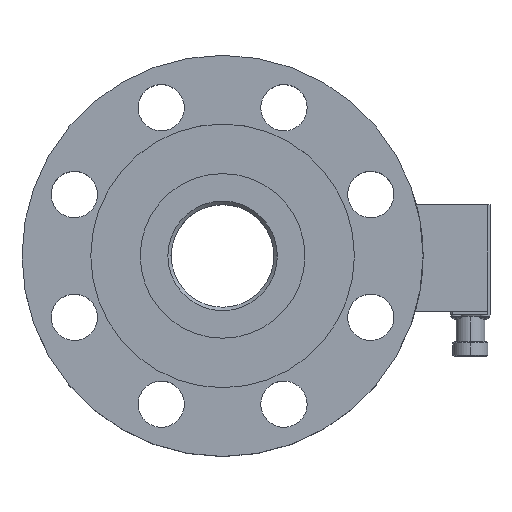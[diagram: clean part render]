
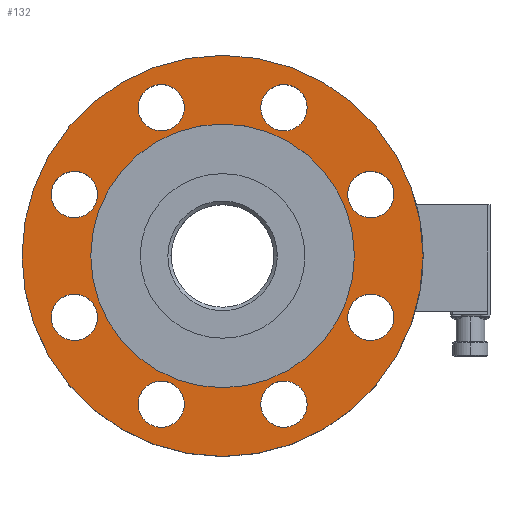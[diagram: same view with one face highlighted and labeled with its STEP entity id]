
A CAD part, top view. The second image highlights one B-rep face of the part: STEP entity #132.
In plain terms, the highlighted planar face has unit normal (0, 0, 1).
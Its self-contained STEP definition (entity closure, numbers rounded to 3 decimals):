
#132=ADVANCED_FACE('',(#359,#360,#361,#362,#363,#364,#365,#366,#367,#368),#369,.T.);
#359=FACE_BOUND('',#726,.T.);
#360=FACE_BOUND('',#727,.T.);
#361=FACE_BOUND('',#728,.T.);
#362=FACE_BOUND('',#729,.T.);
#363=FACE_BOUND('',#730,.T.);
#364=FACE_BOUND('',#731,.T.);
#365=FACE_BOUND('',#732,.T.);
#366=FACE_BOUND('',#733,.T.);
#367=FACE_BOUND('',#734,.T.);
#368=FACE_OUTER_BOUND('',#735,.T.);
#369=PLANE('',#736);
#726=EDGE_LOOP('',(#1437,#1438));
#727=EDGE_LOOP('',(#1439,#1440));
#728=EDGE_LOOP('',(#1441,#1442));
#729=EDGE_LOOP('',(#1443,#1444));
#730=EDGE_LOOP('',(#1445,#1446));
#731=EDGE_LOOP('',(#1447,#1448));
#732=EDGE_LOOP('',(#1449,#1450));
#733=EDGE_LOOP('',(#1451,#1452));
#734=EDGE_LOOP('',(#1453,#1454));
#735=EDGE_LOOP('',(#1455,#1456));
#736=AXIS2_PLACEMENT_3D('',#1457,#1458,#1459);
#1437=ORIENTED_EDGE('',*,*,#2516,.T.);
#1438=ORIENTED_EDGE('',*,*,#2499,.T.);
#1439=ORIENTED_EDGE('',*,*,#2518,.T.);
#1440=ORIENTED_EDGE('',*,*,#2495,.T.);
#1441=ORIENTED_EDGE('',*,*,#2520,.T.);
#1442=ORIENTED_EDGE('',*,*,#2491,.T.);
#1443=ORIENTED_EDGE('',*,*,#2522,.T.);
#1444=ORIENTED_EDGE('',*,*,#2487,.T.);
#1445=ORIENTED_EDGE('',*,*,#2524,.T.);
#1446=ORIENTED_EDGE('',*,*,#2483,.T.);
#1447=ORIENTED_EDGE('',*,*,#2526,.T.);
#1448=ORIENTED_EDGE('',*,*,#2479,.T.);
#1449=ORIENTED_EDGE('',*,*,#2528,.T.);
#1450=ORIENTED_EDGE('',*,*,#2475,.T.);
#1451=ORIENTED_EDGE('',*,*,#2530,.T.);
#1452=ORIENTED_EDGE('',*,*,#2471,.T.);
#1453=ORIENTED_EDGE('',*,*,#2538,.T.);
#1454=ORIENTED_EDGE('',*,*,#2449,.T.);
#1455=ORIENTED_EDGE('',*,*,#2503,.F.);
#1456=ORIENTED_EDGE('',*,*,#2514,.F.);
#1457=CARTESIAN_POINT('',(47.625,0.,50.8));
#1458=DIRECTION('',(0.,0.,1.0));
#1459=DIRECTION('',(-1.0,0.,0.));
#2449=EDGE_CURVE('',#2992,#2989,#2993,.T.);
#2471=EDGE_CURVE('',#3032,#3029,#3033,.T.);
#2475=EDGE_CURVE('',#3040,#3037,#3041,.T.);
#2479=EDGE_CURVE('',#3048,#3045,#3049,.T.);
#2483=EDGE_CURVE('',#3056,#3053,#3057,.T.);
#2487=EDGE_CURVE('',#3064,#3061,#3065,.T.);
#2491=EDGE_CURVE('',#3072,#3069,#3073,.T.);
#2495=EDGE_CURVE('',#3080,#3077,#3081,.T.);
#2499=EDGE_CURVE('',#3088,#3085,#3089,.T.);
#2503=EDGE_CURVE('',#3093,#3096,#3097,.T.);
#2514=EDGE_CURVE('',#3096,#3093,#3115,.T.);
#2516=EDGE_CURVE('',#3085,#3088,#3117,.T.);
#2518=EDGE_CURVE('',#3077,#3080,#3119,.T.);
#2520=EDGE_CURVE('',#3069,#3072,#3121,.T.);
#2522=EDGE_CURVE('',#3061,#3064,#3123,.T.);
#2524=EDGE_CURVE('',#3053,#3056,#3125,.T.);
#2526=EDGE_CURVE('',#3045,#3048,#3127,.T.);
#2528=EDGE_CURVE('',#3037,#3040,#3129,.T.);
#2530=EDGE_CURVE('',#3029,#3032,#3131,.T.);
#2538=EDGE_CURVE('',#2989,#2992,#3139,.T.);
#2989=VERTEX_POINT('',#3987);
#2992=VERTEX_POINT('',#3991);
#2993=CIRCLE('',#3992,62.6);
#3029=VERTEX_POINT('',#4039);
#3032=VERTEX_POINT('',#4043);
#3033=CIRCLE('',#4044,11.0);
#3037=VERTEX_POINT('',#4049);
#3040=VERTEX_POINT('',#4053);
#3041=CIRCLE('',#4054,11.0);
#3045=VERTEX_POINT('',#4059);
#3048=VERTEX_POINT('',#4063);
#3049=CIRCLE('',#4064,11.0);
#3053=VERTEX_POINT('',#4069);
#3056=VERTEX_POINT('',#4073);
#3057=CIRCLE('',#4074,11.0);
#3061=VERTEX_POINT('',#4079);
#3064=VERTEX_POINT('',#4083);
#3065=CIRCLE('',#4084,11.0);
#3069=VERTEX_POINT('',#4089);
#3072=VERTEX_POINT('',#4093);
#3073=CIRCLE('',#4094,11.0);
#3077=VERTEX_POINT('',#4099);
#3080=VERTEX_POINT('',#4103);
#3081=CIRCLE('',#4104,11.0);
#3085=VERTEX_POINT('',#4109);
#3088=VERTEX_POINT('',#4113);
#3089=CIRCLE('',#4114,11.0);
#3093=VERTEX_POINT('',#4119);
#3096=VERTEX_POINT('',#4123);
#3097=CIRCLE('',#4124,95.25);
#3115=CIRCLE('',#4146,95.25);
#3117=CIRCLE('',#4148,11.0);
#3119=CIRCLE('',#4150,11.0);
#3121=CIRCLE('',#4152,11.0);
#3123=CIRCLE('',#4154,11.0);
#3125=CIRCLE('',#4156,11.0);
#3127=CIRCLE('',#4158,11.0);
#3129=CIRCLE('',#4160,11.0);
#3131=CIRCLE('',#4162,11.0);
#3139=CIRCLE('',#4170,62.6);
#3987=CARTESIAN_POINT('',(62.6,0.0,50.8));
#3991=CARTESIAN_POINT('',(-62.6,0.,50.8));
#3992=AXIS2_PLACEMENT_3D('',#5028,#5029,#5030);
#4039=CARTESIAN_POINT('',(-80.562,-33.37,50.8));
#4043=CARTESIAN_POINT('',(-60.237,-24.951,50.8));
#4044=AXIS2_PLACEMENT_3D('',#5070,#5071,#5072);
#4049=CARTESIAN_POINT('',(-33.37,-80.562,50.8));
#4053=CARTESIAN_POINT('',(-24.951,-60.237,50.8));
#4054=AXIS2_PLACEMENT_3D('',#5078,#5079,#5080);
#4059=CARTESIAN_POINT('',(33.37,-80.562,50.8));
#4063=CARTESIAN_POINT('',(24.951,-60.237,50.8));
#4064=AXIS2_PLACEMENT_3D('',#5086,#5087,#5088);
#4069=CARTESIAN_POINT('',(80.562,-33.37,50.8));
#4073=CARTESIAN_POINT('',(60.237,-24.951,50.8));
#4074=AXIS2_PLACEMENT_3D('',#5094,#5095,#5096);
#4079=CARTESIAN_POINT('',(80.562,33.37,50.8));
#4083=CARTESIAN_POINT('',(60.237,24.951,50.8));
#4084=AXIS2_PLACEMENT_3D('',#5102,#5103,#5104);
#4089=CARTESIAN_POINT('',(33.37,80.562,50.8));
#4093=CARTESIAN_POINT('',(24.951,60.237,50.8));
#4094=AXIS2_PLACEMENT_3D('',#5110,#5111,#5112);
#4099=CARTESIAN_POINT('',(-33.37,80.562,50.8));
#4103=CARTESIAN_POINT('',(-24.951,60.237,50.8));
#4104=AXIS2_PLACEMENT_3D('',#5118,#5119,#5120);
#4109=CARTESIAN_POINT('',(-80.562,33.37,50.8));
#4113=CARTESIAN_POINT('',(-60.237,24.951,50.8));
#4114=AXIS2_PLACEMENT_3D('',#5126,#5127,#5128);
#4119=CARTESIAN_POINT('',(95.25,0.,50.8));
#4123=CARTESIAN_POINT('',(-95.25,0.,50.8));
#4124=AXIS2_PLACEMENT_3D('',#5134,#5135,#5136);
#4146=AXIS2_PLACEMENT_3D('',#5159,#5160,#5161);
#4148=AXIS2_PLACEMENT_3D('',#5165,#5166,#5167);
#4150=AXIS2_PLACEMENT_3D('',#5171,#5172,#5173);
#4152=AXIS2_PLACEMENT_3D('',#5177,#5178,#5179);
#4154=AXIS2_PLACEMENT_3D('',#5183,#5184,#5185);
#4156=AXIS2_PLACEMENT_3D('',#5189,#5190,#5191);
#4158=AXIS2_PLACEMENT_3D('',#5195,#5196,#5197);
#4160=AXIS2_PLACEMENT_3D('',#5201,#5202,#5203);
#4162=AXIS2_PLACEMENT_3D('',#5207,#5208,#5209);
#4170=AXIS2_PLACEMENT_3D('',#5231,#5232,#5233);
#5028=CARTESIAN_POINT('',(0.0,0.,50.8));
#5029=DIRECTION('',(0.,0.,-1.0));
#5030=DIRECTION('',(1.0,0.,0.));
#5070=CARTESIAN_POINT('',(-70.4,-29.16,50.8));
#5071=DIRECTION('',(0.,0.,-1.0));
#5072=DIRECTION('',(-0.924,-0.383,0.));
#5078=CARTESIAN_POINT('',(-29.16,-70.4,50.8));
#5079=DIRECTION('',(0.,0.,-1.0));
#5080=DIRECTION('',(-0.383,-0.924,0.));
#5086=CARTESIAN_POINT('',(29.16,-70.4,50.8));
#5087=DIRECTION('',(0.,0.,-1.0));
#5088=DIRECTION('',(0.383,-0.924,0.));
#5094=CARTESIAN_POINT('',(70.4,-29.16,50.8));
#5095=DIRECTION('',(0.,0.,-1.0));
#5096=DIRECTION('',(0.924,-0.383,0.));
#5102=CARTESIAN_POINT('',(70.4,29.16,50.8));
#5103=DIRECTION('',(0.,0.,-1.0));
#5104=DIRECTION('',(0.924,0.383,0.));
#5110=CARTESIAN_POINT('',(29.16,70.4,50.8));
#5111=DIRECTION('',(0.,0.,-1.0));
#5112=DIRECTION('',(0.383,0.924,0.));
#5118=CARTESIAN_POINT('',(-29.16,70.4,50.8));
#5119=DIRECTION('',(0.,0.,-1.0));
#5120=DIRECTION('',(-0.383,0.924,0.));
#5126=CARTESIAN_POINT('',(-70.4,29.16,50.8));
#5127=DIRECTION('',(0.,0.,-1.0));
#5128=DIRECTION('',(-0.924,0.383,0.));
#5134=CARTESIAN_POINT('',(0.0,0.,50.8));
#5135=DIRECTION('',(0.0,0.,-1.0));
#5136=DIRECTION('',(1.0,0.0,0.0));
#5159=CARTESIAN_POINT('',(0.0,0.,50.8));
#5160=DIRECTION('',(0.0,0.,-1.0));
#5161=DIRECTION('',(1.0,0.0,0.0));
#5165=CARTESIAN_POINT('',(-70.4,29.16,50.8));
#5166=DIRECTION('',(0.,0.,-1.0));
#5167=DIRECTION('',(-0.924,0.383,0.));
#5171=CARTESIAN_POINT('',(-29.16,70.4,50.8));
#5172=DIRECTION('',(0.,0.,-1.0));
#5173=DIRECTION('',(-0.383,0.924,0.));
#5177=CARTESIAN_POINT('',(29.16,70.4,50.8));
#5178=DIRECTION('',(0.,0.,-1.0));
#5179=DIRECTION('',(0.383,0.924,0.));
#5183=CARTESIAN_POINT('',(70.4,29.16,50.8));
#5184=DIRECTION('',(0.,0.,-1.0));
#5185=DIRECTION('',(0.924,0.383,0.));
#5189=CARTESIAN_POINT('',(70.4,-29.16,50.8));
#5190=DIRECTION('',(0.,0.,-1.0));
#5191=DIRECTION('',(0.924,-0.383,0.));
#5195=CARTESIAN_POINT('',(29.16,-70.4,50.8));
#5196=DIRECTION('',(0.,0.,-1.0));
#5197=DIRECTION('',(0.383,-0.924,0.));
#5201=CARTESIAN_POINT('',(-29.16,-70.4,50.8));
#5202=DIRECTION('',(0.,0.,-1.0));
#5203=DIRECTION('',(-0.383,-0.924,0.));
#5207=CARTESIAN_POINT('',(-70.4,-29.16,50.8));
#5208=DIRECTION('',(0.,0.,-1.0));
#5209=DIRECTION('',(-0.924,-0.383,0.));
#5231=CARTESIAN_POINT('',(0.0,0.,50.8));
#5232=DIRECTION('',(0.,0.,-1.0));
#5233=DIRECTION('',(1.0,0.,0.));
